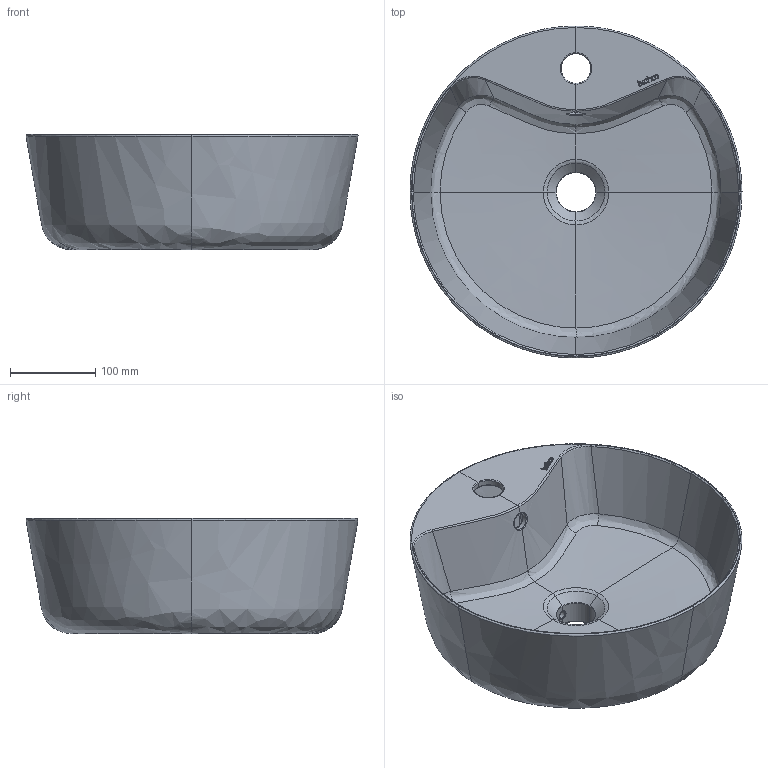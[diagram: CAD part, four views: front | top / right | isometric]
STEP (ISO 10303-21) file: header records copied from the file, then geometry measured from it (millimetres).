
FILE_DESCRIPTION(/* description */ (''),/* implementation_level */ '2;1');
FILE_NAME(/* name */ '0040N_VIENA',/* time_stamp */ '2022-12-14T14:01:12+01:00',/* author */ (''),/* organization */ (''),/* preprocessor_version */ 'ST-DEVELOPER v16.5',/* originating_system */ '',/* authorisation */ '');
FILE_SCHEMA (('CONFIG_CONTROL_DESIGN'));
Length unit declared in the file: millimetre
Products named in the file (1): Document
Bounding box: 389.31 x 389.3 x 135.1 mm (x, y, z)
Volume: 2295674 mm3; surface area: 586664.5 mm2
Topology: 7 solids, 7 shells, 327 faces, 740 edges, 419 vertices
Faces by surface type: bspline 240, plane 59, cylinder 28
Entity records: 21953 total; most frequent: CARTESIAN_POINT 17674, ORIENTED_EDGE 1476, EDGE_CURVE 738, VERTEX_POINT 419, EDGE_LOOP 333, ADVANCED_FACE 327, FACE_OUTER_BOUND 327, B_SPLINE_CURVE_WITH_KNOTS 248
